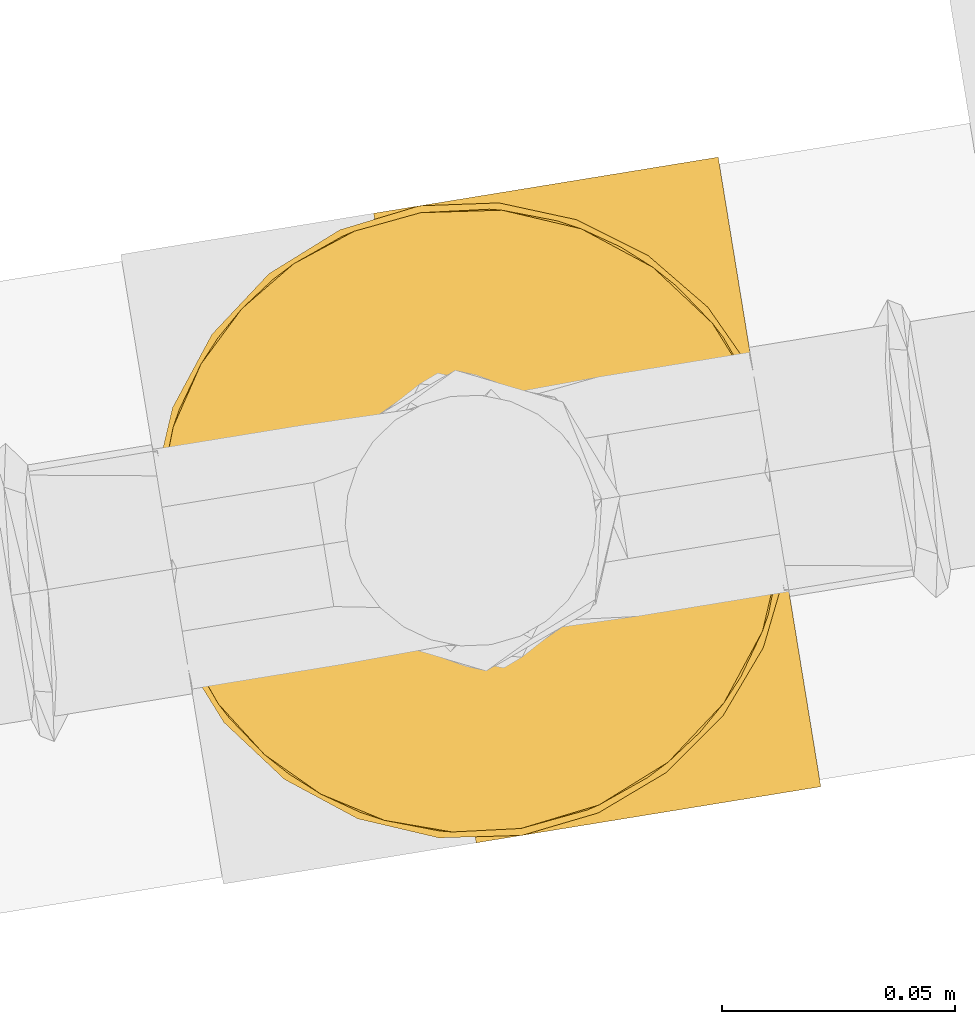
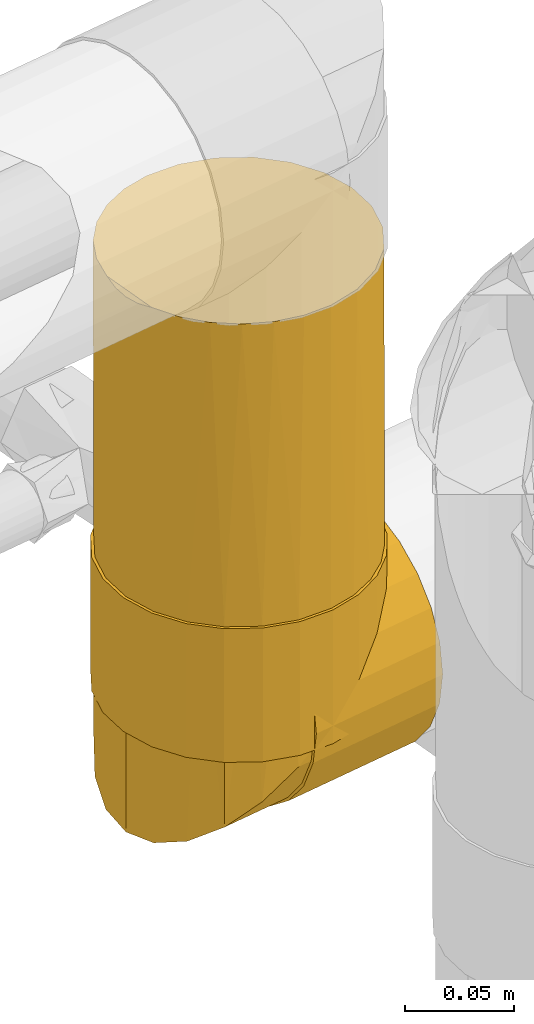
# One storey, part 7 of 56: 2 coverings.
"""IFC2X3 building model written with IfcOpenShell, lengths in millimetres."""

from ifc_helpers import new_model, entity, si_unit, converted_unit, derived_unit, direction, frame, origin, origin_with_axes, place, context, subcontext, project, spatial, faceted_brep, material, type_object, element, save


model = new_model("IFC2X3")

# Units and contexts
model_context = context("Model", 3, precision=0.01, world=origin(), true_north=direction((6.12323399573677e-17, 1.0)))
plan_context = context("Plan", 3, precision=1e-05, world=origin_with_axes())
body_context = subcontext(model_context, "Body", "Model", "MODEL_VIEW")
ifc_project = project(units=[converted_unit("PLANEANGLEUNIT", "DEGREE", entity("IfcPositiveLengthMeasure", 0.0174532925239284), si_unit("PLANEANGLEUNIT", "RADIAN"), dimensions=[0, 0, 0, 0, 0, 0, 0]), si_unit("AREAUNIT", "SQUARE_METRE"), si_unit("LENGTHUNIT", "METRE", prefix="MILLI"), si_unit("MASSUNIT", "GRAM", prefix="KILO"), si_unit("POWERUNIT", "WATT"), si_unit("PRESSUREUNIT", "PASCAL", prefix="KILO"), si_unit("FORCEUNIT", "NEWTON", prefix="KILO"), si_unit("ELECTRICVOLTAGEUNIT", "VOLT"), si_unit("ELECTRICCURRENTUNIT", "AMPERE"), si_unit("THERMODYNAMICTEMPERATUREUNIT", "DEGREE_CELSIUS"), si_unit("TIMEUNIT", "SECOND"), si_unit("VOLUMEUNIT", "CUBIC_METRE"), derived_unit("LINEARVELOCITYUNIT", [(si_unit("LENGTHUNIT", "METRE"), 1), (si_unit("TIMEUNIT", "SECOND"), -1)]), derived_unit("VOLUMETRICFLOWRATEUNIT", [(si_unit("VOLUMEUNIT", "CUBIC_METRE"), 1), (si_unit("TIMEUNIT", "SECOND"), -1)]), derived_unit("THERMALTRANSMITTANCEUNIT", [(si_unit("POWERUNIT", "WATT"), 1), (si_unit("THERMODYNAMICTEMPERATUREUNIT", "KELVIN"), -1), (si_unit("AREAUNIT", "SQUARE_METRE"), -1)]), derived_unit("SOUNDPRESSUREUNIT", [(si_unit("PRESSUREUNIT", "PASCAL"), 1)])], contexts=[model_context, plan_context])

# Site, building, storey
site_placement = place(None, frame((-3.09682673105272e-06, 1.93776733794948e-05, 0.0), z_axis=(0.0, 0.0, 1.0), x_axis=(-0.160806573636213, 0.986985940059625, 0.0)))
site = spatial("IfcSite", under=ifc_project, at=site_placement, Name="Default", CompositionType="ELEMENT")
building_placement = place(site_placement, frame((0.0, 0.0, 0.0), z_axis=(0.0, 0.0, 1.0), x_axis=(1.0, -2.77555756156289e-17, 0.0)))
building = spatial("IfcBuilding", under=site, at=building_placement, Name="Bygning (endres i Project Information)", CompositionType="ELEMENT")
storey_placement = place(building_placement, frame((0.0, 0.0, 51360.0000000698), z_axis=(0.0, 0.0, 1.0), x_axis=(1.0, -2.77555756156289e-17, 0.0)))
storey = spatial("IfcBuildingStorey", under=building, at=storey_placement, Name="H01-Nivå D+0,36", CompositionType="ELEMENT", Elevation=51360.0000000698)

# Coverings
ifc_material = material(Name="3200.002 Retur")
covering_type = type_object("IfcCoveringType", Name="Pipe Insulation:GLAVA Rørskål ClimPipe Alu2, isol.kl.4, 45°C", PredefinedType="INSULATION")
covering_1_placement = place(storey_placement, frame((1011218.30953621, -395259.820539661, 3229.9047277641), z_axis=(0.0, 0.0, 1.0), x_axis=(1.0, -2.77555756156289e-17, 0.0)))
element("IfcCovering", 1, at=covering_1_placement, inside=storey, type_object=covering_type, material=ifc_material, Name="Pipe Insulation:GLAVA Rørskål ClimPipe Alu2, isol.kl.4, 45°C", ObjectType="Pipe Insulation:GLAVA Rørskål ClimPipe Alu2, isol.kl.4, 45°C", PredefinedType="INSULATION", context=body_context, shape_type="Brep", body=[
    faceted_brep([(91.7112385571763, 1.59527223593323, 135.095272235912), (91.7112385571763, 76.5952722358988, 135.095272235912), (48.4793059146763, 76.5952722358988, 135.095272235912), (48.4793059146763, 1.59527223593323, 135.095272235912), (3.7245730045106, 76.5952722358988, 87.0416666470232), (9.9789826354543, 76.5952722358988, 102.932472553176), (19.9694770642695, 76.5952722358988, 116.782044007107), (33.074486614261, 76.5952722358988, 127.729562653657), (107.116057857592, 76.5952722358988, 127.729562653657), (120.221067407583, 76.5952722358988, 116.782044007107), (130.211561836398, 76.5952722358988, 102.932472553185), (136.465971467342, 76.5952722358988, 87.0416666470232), (138.595272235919, 76.5952722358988, 70.095272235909), (136.261191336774, 76.5952722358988, 52.366167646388), (129.418012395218, 76.5952722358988, 35.8452722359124), (118.532086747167, 76.5952722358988, 21.658457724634), (104.345272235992, 76.5952722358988, 10.7725320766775), (87.8243768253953, 76.5952722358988, 3.92935313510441), (70.0952722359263, 76.5952722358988, 1.59527223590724), (52.3661676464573, 76.5952722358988, 3.92935313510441), (35.8452722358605, 76.5952722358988, 10.7725320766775), (21.658457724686, 76.5952722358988, 21.6584577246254), (10.7725320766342, 76.5952722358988, 35.8452722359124), (3.92935313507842, 76.5952722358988, 52.366167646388), (1.59527223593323, 76.5952722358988, 70.095272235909), (107.116057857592, 1.59527223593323, 127.729562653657), (120.221067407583, 1.59527223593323, 116.782044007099), (130.211561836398, 1.59527223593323, 102.932472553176), (136.465971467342, 1.59527223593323, 87.0416666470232), (138.595272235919, 1.59527223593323, 70.095272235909), (136.261191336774, 1.59527223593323, 52.366167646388), (129.418012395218, 1.59527223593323, 35.8452722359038), (118.532086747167, 1.59527223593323, 21.6584577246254), (104.345272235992, 1.59527223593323, 10.7725320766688), (87.8243768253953, 1.59527223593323, 3.92935313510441), (70.0952722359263, 1.59527223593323, 1.59527223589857), (52.3661676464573, 1.59527223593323, 3.92935313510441), (35.8452722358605, 1.59527223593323, 10.7725320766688), (21.658457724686, 1.59527223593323, 21.6584577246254), (10.7725320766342, 1.59527223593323, 35.8452722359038), (3.92935313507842, 1.59527223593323, 52.366167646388), (1.59527223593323, 1.59527223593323, 70.095272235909), (3.7245730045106, 1.59527223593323, 87.0416666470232), (9.9789826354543, 1.59527223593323, 102.932472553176), (19.9694770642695, 1.59527223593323, 116.782044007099), (33.074486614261, 1.59527223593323, 127.729562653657)], [[[0, 1, 2, 3]], [[4, 5, 6, 7, 2, 1, 8, 9, 10, 11, 12, 13, 14, 15, 16, 17, 18, 19, 20, 21, 22, 23, 24]], [[25, 26, 9, 8]], [[0, 25, 8, 1]], [[26, 27, 10, 9]], [[10, 27, 28, 11]], [[11, 28, 29, 12]], [[13, 30, 31, 14]], [[14, 31, 32, 15]], [[12, 29, 30, 13]], [[16, 33, 34, 17]], [[17, 34, 35, 18]], [[15, 32, 33, 16]], [[19, 36, 37, 20]], [[20, 37, 38, 21]], [[35, 36, 19, 18]], [[22, 39, 40, 23]], [[23, 40, 41, 24]], [[21, 38, 39, 22]], [[24, 41, 42, 4]], [[4, 42, 43, 5]], [[43, 44, 6, 5]], [[6, 44, 45, 7]], [[7, 45, 3, 2]], [[28, 27, 26, 25, 0, 3, 45, 44, 43, 42, 41, 40, 39, 38, 37, 36, 35, 34, 33, 32, 31, 30, 29]]]),
    faceted_brep([(48.4793059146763, 1.59527223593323, 60.0952722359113), (91.7112385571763, 1.59527223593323, 60.0952722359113), (91.7112385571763, 1.59527223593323, 135.095272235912), (48.4793059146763, 1.59527223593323, 135.095272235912), (3.92935313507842, 84.3243768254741, 60.0952722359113), (10.7725320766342, 100.845272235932, 60.0952722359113), (21.658457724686, 115.032086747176, 60.0952722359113), (35.8452722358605, 125.918012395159, 60.0952722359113), (52.3661676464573, 132.761191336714, 60.0952722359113), (70.0952722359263, 135.095272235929, 60.0952722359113), (87.8243768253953, 132.761191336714, 60.0952722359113), (104.345272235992, 125.918012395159, 60.0952722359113), (118.532086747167, 115.032086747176, 60.0952722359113), (129.418012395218, 100.845272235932, 60.0952722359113), (136.261191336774, 84.3243768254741, 60.0952722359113), (138.595272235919, 66.5952722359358, 60.0952722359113), (136.465971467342, 49.6488778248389, 60.0952722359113), (130.211561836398, 33.7580719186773, 60.0952722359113), (120.221067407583, 19.9085004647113, 60.0952722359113), (107.116057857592, 8.96098181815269, 60.0952722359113), (33.074486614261, 8.96098181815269, 60.0952722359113), (19.9694770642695, 19.9085004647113, 60.0952722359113), (9.9789826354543, 33.7580719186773, 60.0952722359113), (3.7245730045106, 49.6488778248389, 60.0952722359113), (1.59527223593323, 66.5952722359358, 60.0952722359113), (70.0952722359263, 135.095272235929, 135.095272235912), (87.8243768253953, 132.761191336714, 135.095272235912), (104.345272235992, 125.918012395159, 135.095272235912), (118.532086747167, 115.032086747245, 135.095272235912), (129.418012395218, 100.845272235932, 135.095272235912), (136.261191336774, 84.3243768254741, 135.095272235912), (138.595272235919, 66.5952722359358, 135.095272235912), (136.465971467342, 49.6488778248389, 135.095272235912), (130.211561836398, 33.7580719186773, 135.095272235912), (120.221067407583, 19.9085004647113, 135.095272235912), (107.116057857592, 8.96098181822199, 135.095272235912), (33.074486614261, 8.96098181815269, 135.095272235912), (19.9694770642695, 19.9085004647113, 135.095272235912), (9.9789826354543, 33.7580719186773, 135.095272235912), (3.7245730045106, 49.6488778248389, 135.095272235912), (1.59527223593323, 66.5952722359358, 135.095272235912), (3.92935313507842, 84.3243768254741, 135.095272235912), (10.7725320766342, 100.845272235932, 135.095272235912), (21.658457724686, 115.032086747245, 135.095272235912), (35.8452722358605, 125.918012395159, 135.095272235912), (52.3661676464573, 132.761191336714, 135.095272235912)], [[[0, 1, 2, 3]], [[4, 5, 6, 7, 8, 9, 10, 11, 12, 13, 14, 15, 16, 17, 18, 19, 1, 0, 20, 21, 22, 23, 24]], [[25, 26, 10, 9]], [[12, 11, 27, 28]], [[27, 11, 10, 26]], [[13, 29, 30, 14]], [[14, 30, 31, 15]], [[12, 28, 29, 13]], [[15, 31, 32, 16]], [[16, 32, 33, 17]], [[33, 34, 18, 17]], [[18, 34, 35, 19]], [[19, 35, 2, 1]], [[0, 3, 36, 20]], [[20, 36, 37, 21]], [[37, 38, 22, 21]], [[22, 38, 39, 23]], [[23, 39, 40, 24]], [[4, 41, 42, 5]], [[5, 42, 43, 6]], [[40, 41, 4, 24]], [[7, 44, 45, 8]], [[8, 45, 25, 9]], [[6, 43, 44, 7]], [[2, 35, 34, 33, 32, 31, 30, 29, 28, 27, 26, 25, 45, 44, 43, 42, 41, 40, 39, 38, 37, 36, 3]]]),
    faceted_brep([(123.109968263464, 25.6264791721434, 135.095272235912), (133.502624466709, 44.9502339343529, 135.095272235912), (137.095272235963, 66.5952722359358, 135.095272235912), (134.545236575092, 79.4151672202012, 135.095272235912), (131.99520091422, 92.2350622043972, 135.095272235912), (124.733313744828, 103.103244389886, 135.095272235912), (117.471426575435, 113.971426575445, 135.095272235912), (106.603244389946, 121.233313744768, 135.095272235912), (95.7350622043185, 128.49520091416, 135.095272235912), (82.9151672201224, 131.045236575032, 135.095272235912), (70.0952722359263, 133.595272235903, 135.095272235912), (57.2753772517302, 131.045236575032, 135.095272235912), (44.4554822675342, 128.49520091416, 135.095272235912), (33.5873000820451, 121.233313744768, 135.095272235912), (22.7191178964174, 113.971426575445, 135.095272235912), (15.4572307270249, 103.103244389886, 135.095272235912), (8.19534355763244, 92.2350622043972, 135.095272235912), (5.64530789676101, 79.4151672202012, 135.095272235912), (3.09527223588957, 66.5952722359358, 135.095272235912), (6.68792000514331, 44.9502339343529, 135.095272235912), (17.0805762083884, 25.6264791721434, 135.095272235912), (25.11963758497, 18.1614143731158, 135.095272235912), (29.1391682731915, 14.4288819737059, 135.095272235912), (33.158698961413, 10.6963495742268, 135.095272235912), (38.1685288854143, 8.46251224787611, 135.095272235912), (40.6734438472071, 7.34559358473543, 135.095272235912), (43.1783588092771, 6.22867492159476, 135.095272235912), (44.4308162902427, 5.67021559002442, 135.095272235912), (45.6832737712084, 5.11175625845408, 135.095272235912), (46.9357312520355, 4.55329692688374, 135.095272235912), (48.1881887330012, 3.9948375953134, 135.095272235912), (48.814417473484, 3.71560792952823, 135.095272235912), (49.4406462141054, 3.43637826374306, 135.095272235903), (50.0668749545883, 3.15714859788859, 135.095272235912), (50.6931036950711, 2.87791893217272, 135.095272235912), (51.319332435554, 2.59868926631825, 135.09527223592), (51.6324468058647, 2.45907443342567, 135.095272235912), (51.9455611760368, 2.31945960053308, 135.09527223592), (52.2586755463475, 2.1798447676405, 135.095272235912), (52.5717899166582, 2.04022993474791, 135.095272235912), (52.7283471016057, 1.97042251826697, 135.095272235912), (52.8849042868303, 1.90061510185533, 135.095272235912), (53.0414614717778, 1.83080768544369, 135.095272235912), (53.1197400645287, 1.79590397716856, 135.095272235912), (53.1980186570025, 1.76100026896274, 135.095272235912), (86.9925258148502, 1.76100026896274, 135.095272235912), (87.0708044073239, 1.79590397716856, 135.095272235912), (87.1490829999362, 1.83080768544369, 135.095272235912), (87.3056401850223, 1.90061510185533, 135.095272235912), (87.4621973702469, 1.97042251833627, 135.095272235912), (87.618754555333, 2.04022993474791, 135.095272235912), (87.9318689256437, 2.1798447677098, 135.095272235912), (88.2449832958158, 2.31945960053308, 135.095272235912), (88.5580976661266, 2.45907443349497, 135.095272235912), (88.8712120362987, 2.59868926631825, 135.095272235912), (89.4974407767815, 2.87791893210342, 135.095272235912), (90.1236695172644, 3.15714859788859, 135.095272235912), (90.7498982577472, 3.43637826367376, 135.095272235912), (91.3761269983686, 3.71560792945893, 135.095272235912), (92.0023557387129, 3.9948375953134, 135.095272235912), (93.2548132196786, 4.55329692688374, 135.095272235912), (94.5072707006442, 5.11175625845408, 135.095272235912), (95.7597281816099, 5.67021559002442, 135.095272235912), (97.0121856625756, 6.22867492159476, 135.095272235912), (99.5171006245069, 7.34559358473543, 135.095272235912), (102.022015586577, 8.46251224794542, 135.095272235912), (107.03184551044, 10.6963495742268, 135.095272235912), (111.051376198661, 14.4288819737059, 135.095272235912), (115.070906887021, 18.1614143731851, 135.095272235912), (52.7543962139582, 1.59527223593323, 5.3782418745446), (70.0952722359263, 1.59527223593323, 3.0952722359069), (87.4361482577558, 1.59527223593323, 5.3782418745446), (103.595272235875, 1.59527223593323, 12.0715701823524), (117.471426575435, 1.59527223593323, 22.7191178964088), (128.118974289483, 1.59527223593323, 36.5952722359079), (134.812302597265, 1.59527223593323, 52.7543962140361), (137.095272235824, 1.59527223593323, 70.095272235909), (135.490509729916, 1.59527223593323, 84.6713798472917), (130.753095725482, 1.59527223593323, 98.5492429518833), (123.109968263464, 1.59527223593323, 111.064065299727), (112.927258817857, 1.59527223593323, 121.616344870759), (100.692753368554, 1.59527223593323, 129.700592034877), (86.9925258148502, 1.59527223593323, 134.929544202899), (53.1980186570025, 1.59527223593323, 134.929544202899), (39.4977911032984, 1.59527223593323, 129.700592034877), (27.2632856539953, 1.59527223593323, 121.616344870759), (17.0805762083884, 1.59527223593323, 111.064065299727), (9.43744874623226, 1.59527223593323, 98.5492429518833), (4.7000347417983, 1.59527223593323, 84.6713798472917), (3.09527223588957, 1.59527223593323, 70.095272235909), (5.37824187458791, 1.59527223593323, 52.7543962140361), (12.0715701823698, 1.59527223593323, 36.5952722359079), (22.7191178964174, 1.59527223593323, 22.7191178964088), (36.5952722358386, 1.59527223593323, 12.0715701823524), (86.9925258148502, 1.76100026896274, 134.929544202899), (53.1980186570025, 1.76100026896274, 134.929544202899), (27.2632856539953, 15.0741996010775, 121.616344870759), (17.0805762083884, 25.6264791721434, 111.064065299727), (39.4977911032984, 6.98995243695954, 129.700592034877), (36.4391647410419, 9.01101422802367, 127.679530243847), (33.3805383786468, 11.0320760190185, 125.658468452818), (53.0909856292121, 1.80185145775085, 134.888693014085), (52.9839526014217, 1.84270264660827, 134.847841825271), (52.8769195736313, 1.88355383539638, 134.806990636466), (52.7698865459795, 1.92440502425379, 134.766139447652), (52.5558204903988, 2.00610740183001, 134.684437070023), (52.341754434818, 2.08780977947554, 134.602734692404), (51.9136223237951, 2.25121453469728, 134.439329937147), (51.4854902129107, 2.41461928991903, 134.2759251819), (51.0573581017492, 2.57802404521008, 134.112520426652), (50.6292259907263, 2.74142880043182, 133.949115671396), (49.7729617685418, 3.06823831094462, 133.6223061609), (48.9166975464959, 3.39504782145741, 133.295496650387), (48.0604333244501, 3.7218573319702, 132.968687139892), (46.3479048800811, 4.37547635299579, 132.315068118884), (44.6353764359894, 5.02909537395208, 131.661449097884), (42.922847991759, 5.68271439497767, 131.007830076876), (4.70003474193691, 52.019164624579, 84.6713798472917), (3.09527223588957, 66.5952722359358, 70.095272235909), (9.43744874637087, 38.1413015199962, 98.5492429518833), (5.37824187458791, 83.9361482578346, 52.7543962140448), (12.0715701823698, 100.095272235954, 36.5952722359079), (22.7191178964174, 113.971426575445, 22.7191178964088), (36.5952722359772, 124.618974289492, 12.0715701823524), (52.7543962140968, 131.312302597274, 5.3782418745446), (70.0952722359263, 133.595272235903, 3.0952722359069), (87.4361482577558, 131.312302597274, 5.3782418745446), (103.595272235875, 124.618974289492, 12.0715701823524), (117.471426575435, 113.971426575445, 22.7191178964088), (128.118974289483, 100.095272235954, 36.5952722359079), (134.812302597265, 83.9361482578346, 52.7543962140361), (137.095272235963, 66.5952722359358, 70.095272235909), (135.490509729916, 52.019164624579, 84.6713798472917), (130.753095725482, 38.1413015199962, 98.5492429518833), (123.109968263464, 25.6264791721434, 111.064065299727), (100.692753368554, 6.98995243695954, 129.700592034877), (97.2676964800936, 5.68271439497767, 131.007830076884), (95.5551680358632, 5.02909537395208, 131.661449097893), (93.8426395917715, 4.37547635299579, 132.315068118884), (92.1301111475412, 3.7218573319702, 132.968687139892), (91.2738469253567, 3.39504782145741, 133.295496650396), (90.4175827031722, 3.06823831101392, 133.622306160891), (89.5613184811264, 2.74142880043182, 133.949115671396), (89.1331863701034, 2.57802404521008, 134.112520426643), (88.7050542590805, 2.41461928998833, 134.275925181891), (88.276922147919, 2.25121453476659, 134.439329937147), (87.8487900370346, 2.08780977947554, 134.602734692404), (87.6347239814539, 2.00610740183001, 134.684437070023), (87.4206579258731, 1.92440502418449, 134.766139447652), (87.3136248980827, 1.88355383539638, 134.806990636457), (87.2065918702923, 1.84270264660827, 134.84784182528), (87.0995588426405, 1.80185145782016, 134.888693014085), (112.927258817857, 15.0741996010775, 121.616344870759), (106.810006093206, 11.0320760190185, 125.658468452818), (103.751379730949, 9.01101422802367, 127.679530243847)], [[[0, 1, 2, 3, 4, 5, 6, 7, 8, 9, 10, 11, 12, 13, 14, 15, 16, 17, 18, 19, 20, 21, 22, 23, 24, 25, 26, 27, 28, 29, 30, 31, 32, 33, 34, 35, 36, 37, 38, 39, 40, 41, 42, 43, 44, 45, 46, 47, 48, 49, 50, 51, 52, 53, 54, 55, 56, 57, 58, 59, 60, 61, 62, 63, 64, 65, 66, 67, 68]], [[69, 70, 71, 72, 73, 74, 75, 76, 77, 78, 79, 80, 81, 82, 83, 84, 85, 86, 87, 88, 89, 90, 91, 92, 93]], [[83, 82, 94, 95]], [[85, 96, 97, 86]], [[85, 84, 98, 99, 100, 96]], [[83, 95, 101, 102, 103, 84]], [[84, 104, 105, 106, 107]], [[84, 108, 109, 110, 111, 112, 113, 114, 115, 116, 98]], [[117, 118, 89, 88]], [[119, 117, 88, 87]], [[97, 119, 87, 86]], [[90, 89, 118, 120]], [[91, 90, 120, 121]], [[121, 122, 92, 91]], [[69, 93, 123, 124]], [[70, 69, 124, 125]], [[122, 123, 93, 92]], [[70, 125, 126, 71]], [[71, 126, 127, 72]], [[72, 127, 128, 73]], [[73, 128, 129, 74]], [[74, 129, 130, 75]], [[131, 76, 75, 130]], [[132, 133, 78, 77]], [[131, 132, 77, 76]], [[78, 133, 134, 79]], [[81, 135, 136, 137, 138, 139, 140, 141, 142, 143, 144, 145, 146, 147, 148, 149, 150, 151, 94, 82]], [[80, 152, 153, 154, 135, 81]], [[79, 134, 152, 80]], [[95, 94, 45, 44]], [[115, 27, 116]], [[113, 29, 114]], [[114, 29, 28]], [[23, 100, 99]], [[113, 112, 31]], [[98, 24, 99]], [[97, 96, 21]], [[22, 100, 23]], [[21, 20, 97]], [[96, 22, 21]], [[119, 20, 19]], [[25, 116, 27, 26]], [[23, 99, 24]], [[117, 19, 18]], [[100, 22, 96]], [[117, 119, 19]], [[118, 117, 18]], [[98, 25, 24]], [[115, 114, 28]], [[20, 119, 97]], [[34, 110, 109]], [[116, 25, 98]], [[112, 111, 32]], [[29, 113, 31, 30]], [[38, 37, 107]], [[115, 28, 27]], [[111, 33, 32]], [[110, 33, 111]], [[109, 108, 35]], [[33, 110, 34]], [[112, 32, 31]], [[40, 39, 105]], [[108, 36, 35]], [[107, 36, 108]], [[34, 109, 35]], [[107, 106, 38]], [[36, 107, 37]], [[102, 42, 41]], [[106, 39, 38]], [[105, 104, 40]], [[39, 106, 105]], [[101, 43, 42]], [[104, 41, 40]], [[41, 103, 102]], [[41, 104, 103]], [[43, 95, 44]], [[42, 102, 101]], [[95, 43, 101]], [[121, 16, 15]], [[118, 17, 120]], [[16, 121, 120]], [[15, 122, 121]], [[13, 122, 14]], [[17, 16, 120]], [[14, 122, 15]], [[17, 118, 18]], [[122, 13, 123]], [[10, 125, 11]], [[12, 124, 123]], [[125, 124, 11]], [[124, 12, 11]], [[13, 12, 123]], [[125, 9, 126]], [[9, 125, 10]], [[7, 6, 128]], [[7, 128, 127]], [[127, 8, 7]], [[126, 8, 127]], [[5, 4, 129]], [[5, 128, 6]], [[128, 5, 129]], [[9, 8, 126]], [[2, 131, 3]], [[4, 130, 129]], [[131, 130, 3]], [[130, 4, 3]], [[132, 2, 1]], [[135, 65, 64]], [[0, 133, 1]], [[134, 133, 0]], [[152, 68, 67]], [[132, 131, 2]], [[133, 132, 1]], [[66, 154, 153]], [[64, 63, 62, 136]], [[142, 141, 56]], [[67, 66, 153]], [[60, 59, 58, 139]], [[138, 60, 139]], [[154, 66, 65]], [[152, 67, 153]], [[64, 136, 135]], [[134, 68, 152]], [[137, 62, 61]], [[68, 134, 0]], [[138, 61, 60]], [[65, 135, 154]], [[61, 138, 137]], [[145, 144, 53]], [[140, 58, 57]], [[56, 55, 142]], [[136, 62, 137]], [[141, 57, 56]], [[57, 141, 140]], [[50, 147, 146]], [[143, 55, 54]], [[53, 52, 51, 145]], [[55, 143, 142]], [[139, 58, 140]], [[144, 54, 53]], [[48, 150, 149, 148]], [[54, 144, 143]], [[146, 51, 50]], [[145, 51, 146]], [[47, 151, 150]], [[49, 147, 50]], [[148, 49, 48]], [[147, 49, 148]], [[46, 94, 151]], [[150, 48, 47]], [[94, 46, 45]], [[151, 47, 46]], [[84, 103, 104]], [[84, 107, 108]]]),
])
covering_2_placement = place(storey_placement, frame((1011219.80953621, -395261.820539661, 3363.40472776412), z_axis=(0.0, 0.0, 1.0), x_axis=(1.0, -2.77555756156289e-17, 0.0)))
element("IfcCovering", 2, at=covering_2_placement, inside=storey, type_object=covering_type, Name="Pipe Insulation:GLAVA Rørskål ClimPipe Alu2, isol.kl.4, 45°C", ObjectType="Pipe Insulation:GLAVA Rørskål ClimPipe Alu2, isol.kl.4, 45°C", PredefinedType="INSULATION", context=body_context, shape_type="Brep", body=[
    faceted_brep([(3.22798129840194, 53.8943445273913, 1.59527223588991), (1.59527223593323, 68.5952722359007, 1.59527223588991), (3.87824187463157, 85.9361482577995, 1.59527223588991), (10.5715701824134, 102.095272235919, 1.59527223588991), (21.2191178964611, 115.97142657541, 1.59527223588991), (35.0952722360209, 126.618974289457, 1.59527223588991), (51.2543962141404, 133.312302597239, 1.59527223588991), (68.59527223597, 135.595272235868, 1.59527223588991), (85.9361482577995, 133.312302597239, 1.59527223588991), (102.095272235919, 126.618974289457, 1.59527223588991), (115.971426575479, 115.97142657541, 1.59527223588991), (126.618974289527, 102.095272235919, 1.59527223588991), (133.312302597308, 85.9361482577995, 1.59527223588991), (135.595272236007, 68.5952722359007, 1.59527223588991), (133.962563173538, 53.8943445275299, 1.59527223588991), (129.153520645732, 39.9299874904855, 1.59527223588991), (121.401493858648, 27.3581171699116, 1.59527223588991), (111.084056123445, 16.7908009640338, 1.59527223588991), (98.6988512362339, 8.73898993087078, 1.59527223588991), (84.8433490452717, 3.59527223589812, 1.59527223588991), (52.3471954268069, 3.59527223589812, 1.59527223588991), (38.491693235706, 8.73898993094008, 1.59527223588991), (26.1064883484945, 16.7908009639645, 1.59527223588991), (15.7890506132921, 27.3581171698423, 1.59527223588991), (8.03702382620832, 39.9299874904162, 1.59527223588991), (3.87824187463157, 51.2543962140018, 171.595272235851), (10.5715701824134, 35.0952722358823, 171.595272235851), (21.2191178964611, 21.2191178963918, 171.595272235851), (35.0952722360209, 10.5715701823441, 171.595272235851), (51.2543962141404, 3.87824187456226, 171.595272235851), (68.59527223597, 1.59527223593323, 171.595272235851), (85.9361482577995, 3.87824187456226, 171.595272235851), (102.095272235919, 10.5715701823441, 171.595272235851), (115.971426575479, 21.2191178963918, 171.595272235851), (126.618974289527, 35.0952722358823, 171.595272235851), (133.312302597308, 51.2543962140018, 171.595272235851), (135.595272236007, 68.5952722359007, 171.595272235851), (133.962563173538, 83.29619994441, 171.595272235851), (129.153520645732, 97.2605569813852, 171.595272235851), (121.401493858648, 109.832427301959, 171.595272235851), (111.084056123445, 120.399743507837, 171.595272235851), (98.6988512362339, 128.451554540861, 171.595272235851), (84.8433490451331, 133.595272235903, 171.595272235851), (52.3471954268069, 133.595272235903, 171.595272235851), (38.491693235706, 128.451554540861, 171.595272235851), (26.1064883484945, 120.399743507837, 171.595272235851), (15.7890506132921, 109.832427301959, 171.595272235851), (8.03702382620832, 97.2605569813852, 171.595272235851), (3.22798129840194, 83.29619994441, 171.595272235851), (1.59527223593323, 68.5952722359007, 171.595272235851), (60.4099194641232, 135.093392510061, 170.097151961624), (68.59527223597, 135.595272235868, 169.595272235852), (76.7806250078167, 135.093392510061, 170.097151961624), (76.7806250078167, 2.0971519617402, 3.09339251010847), (68.59527223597, 1.59527223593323, 3.59527223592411), (60.4099194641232, 2.0971519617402, 3.09339251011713)], [[[0, 1, 2, 3, 4, 5, 6, 7, 8, 9, 10, 11, 12, 13, 14, 15, 16, 17, 18, 19, 20, 21, 22, 23, 24]], [[25, 26, 27, 28, 29, 30, 31, 32, 33, 34, 35, 36, 37, 38, 39, 40, 41, 42, 43, 44, 45, 46, 47, 48, 49]], [[49, 48, 1]], [[47, 46, 3]], [[48, 47, 2]], [[2, 1, 48]], [[3, 2, 47]], [[46, 4, 3]], [[46, 45, 4]], [[5, 45, 44]], [[44, 43, 6]], [[50, 6, 43]], [[5, 44, 6]], [[7, 6, 50]], [[51, 7, 50]], [[45, 5, 4]], [[8, 52, 42]], [[8, 42, 41]], [[9, 41, 40]], [[51, 52, 7]], [[7, 52, 8]], [[41, 9, 8]], [[40, 10, 9]], [[11, 39, 38]], [[12, 38, 37]], [[13, 37, 36]], [[10, 39, 11]], [[11, 38, 12]], [[37, 13, 12]], [[39, 10, 40]], [[14, 36, 35]], [[15, 35, 34]], [[16, 34, 33]], [[13, 36, 14]], [[14, 35, 15]], [[34, 16, 15]], [[33, 17, 16]], [[18, 32, 31]], [[31, 30, 53]], [[54, 53, 30]], [[17, 32, 18]], [[19, 18, 31]], [[53, 19, 31]], [[32, 17, 33]], [[55, 54, 30]], [[55, 30, 29]], [[21, 29, 28]], [[55, 29, 20]], [[20, 29, 21]], [[28, 22, 21]], [[28, 27, 22]], [[23, 27, 26]], [[24, 26, 25]], [[0, 25, 49]], [[23, 26, 24]], [[24, 25, 0]], [[49, 1, 0]], [[27, 23, 22]], [[55, 20, 19, 53, 54]], [[50, 43, 42, 52, 51]]]),
])

save(model, "model.ifc")
